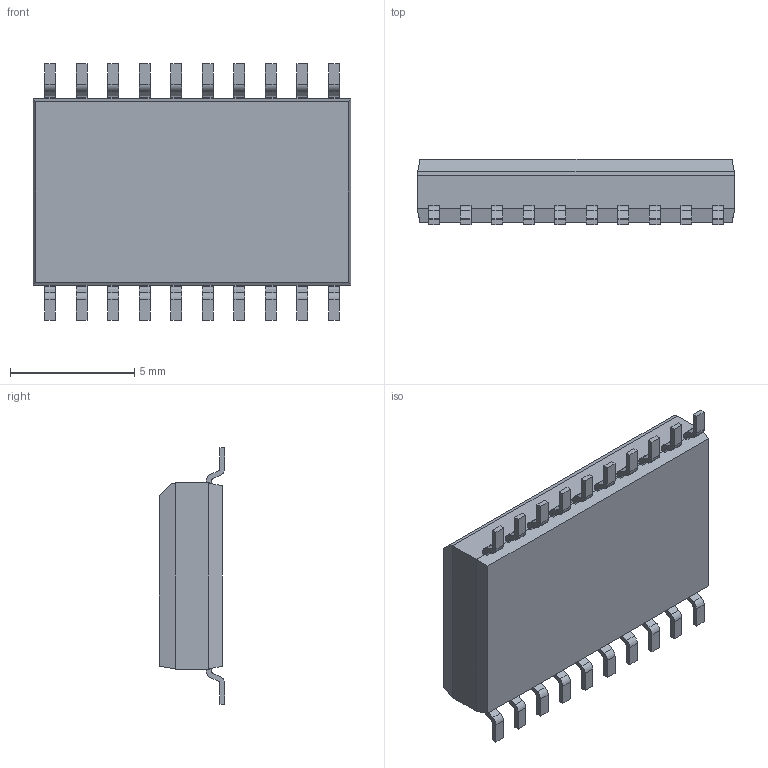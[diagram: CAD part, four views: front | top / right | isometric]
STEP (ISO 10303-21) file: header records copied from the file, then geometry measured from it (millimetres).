
FILE_DESCRIPTION (( 'STEP AP214' ), '1' );
FILE_NAME ( 'SOIC127P1034X264-20.STEP', '2013-10-02T12:32:54', ( '' ), ( '' ), 'FPX Expert 2013', 'PCB Libraries', '' );
FILE_SCHEMA (( 'AUTOMOTIVE_DESIGN' ));
Length unit declared in the file: millimetre
Products named in the file (1): SOIC127P1034X264-20
Bounding box: 12.8 x 2.64 x 10.34 mm (x, y, z)
Volume: 242.7 mm3; surface area: 330.5 mm2
Topology: 21 solids, 21 shells, 295 faces, 751 edges, 498 vertices
Faces by surface type: plane 215, cylinder 80
Entity records: 9805 total; most frequent: CARTESIAN_POINT 1545, DIRECTION 1503, ORIENTED_EDGE 1502, EDGE_CURVE 751, VECTOR 591, LINE 591, VERTEX_POINT 498, AXIS2_PLACEMENT_3D 456
